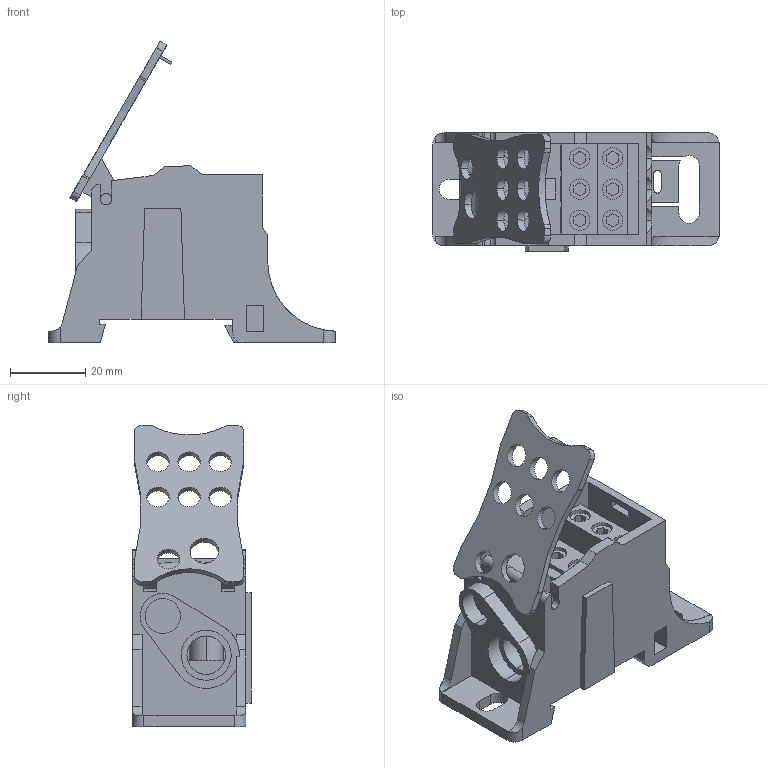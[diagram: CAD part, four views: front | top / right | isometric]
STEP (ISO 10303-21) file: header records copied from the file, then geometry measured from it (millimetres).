
FILE_DESCRIPTION (( 'STEP AP203' ), '1' );
FILE_NAME ('plc-kbr125 Áëîê ÊÁÐ íà DIN-ðåéêó è ìîíòàæíóþ ïàíåëü 125A.STEP', '2017-02-20T17:04:41', ( 'kuryshev' ), ( '' ), 'SwSTEP 2.0', 'SolidWorks 2010', '' );
FILE_SCHEMA (( 'CONFIG_CONTROL_DESIGN' ));
Length unit declared in the file: millimetre
Products named in the file (1): plc-kbr125 Áëîê ÊÁÐ íà DIN-ðåéêó è ìîíòàæíóþ ïàíåëü 125A
Bounding box: 76 x 31.5 x 80.02 mm (x, y, z)
Volume: 41409.8 mm3; surface area: 23492.1 mm2
Topology: 2 solids, 2 shells, 356 faces, 996 edges, 662 vertices
Faces by surface type: plane 228, cylinder 126, torus 2
Entity records: 12154 total; most frequent: CARTESIAN_POINT 2630, ORIENTED_EDGE 1992, DIRECTION 1943, EDGE_CURVE 996, VECTOR 697, LINE 697, VERTEX_POINT 662, AXIS2_PLACEMENT_3D 623
